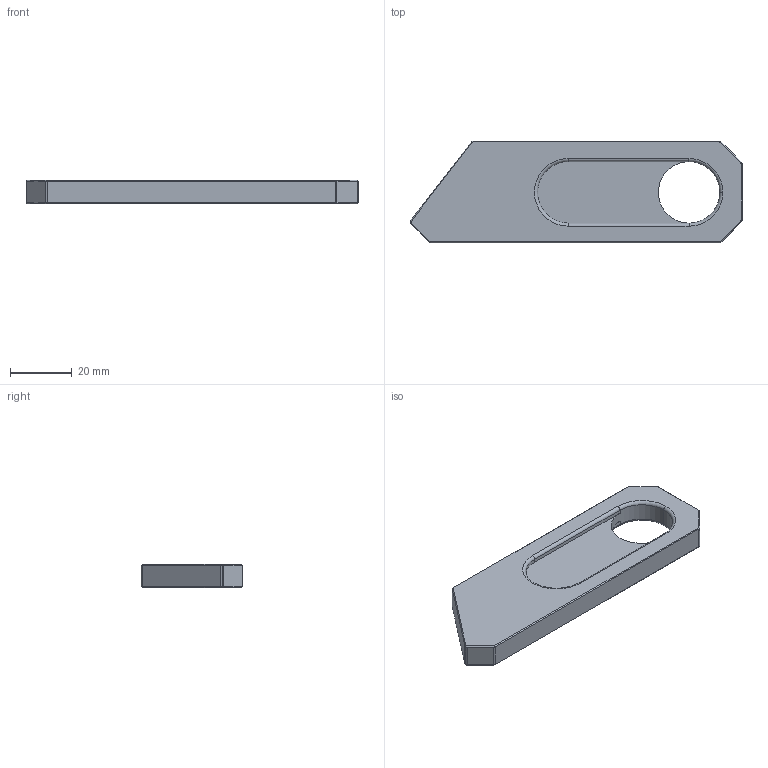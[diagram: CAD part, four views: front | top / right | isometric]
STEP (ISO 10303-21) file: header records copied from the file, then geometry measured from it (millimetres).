
FILE_DESCRIPTION (( 'STEP AP203' ), '1' );
FILE_NAME ('MakerKnifeVolume.step', '2018-11-06T16:07:57', ( '' ), ( '' ), 'SwSTEP 2.0', 'SolidWorks 2017', '' );
FILE_SCHEMA (( 'CONFIG_CONTROL_DESIGN' ));
Length unit declared in the file: millimetre
Products named in the file (1): MakerKnifeVolume
Bounding box: 107.94 x 33.1 x 7.65 mm (x, y, z)
Volume: 18839.3 mm3; surface area: 8427.5 mm2
Topology: 1 solids, 1 shells, 67 faces, 156 edges, 91 vertices
Faces by surface type: plane 29, cylinder 17, cone 15, torus 6
Entity records: 1960 total; most frequent: DIRECTION 353, CARTESIAN_POINT 315, ORIENTED_EDGE 312, EDGE_CURVE 156, AXIS2_PLACEMENT_3D 129, VECTOR 95, LINE 95, VERTEX_POINT 91
